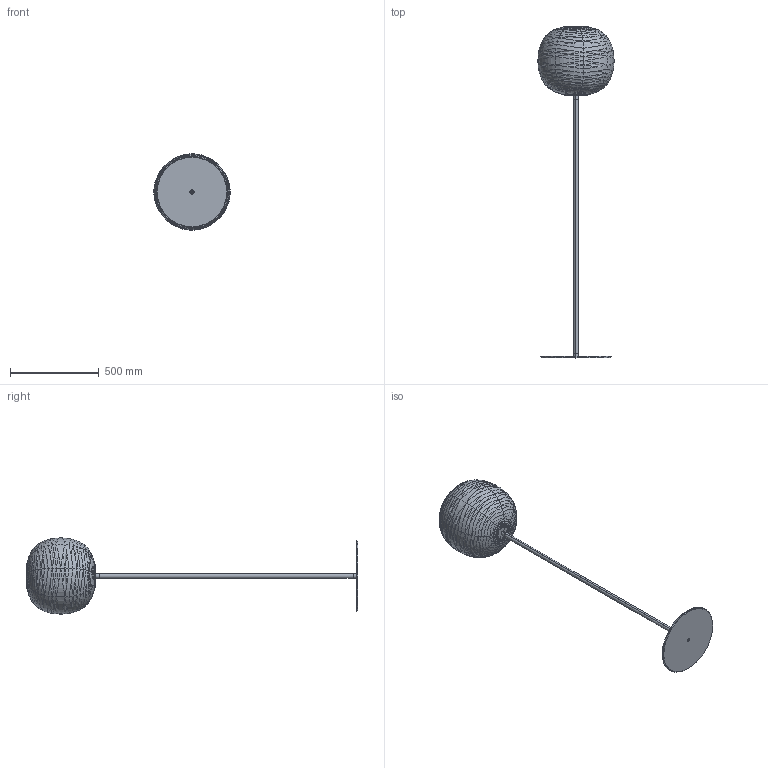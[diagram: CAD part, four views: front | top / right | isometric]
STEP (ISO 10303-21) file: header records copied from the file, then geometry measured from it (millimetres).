
FILE_DESCRIPTION (( 'STEP AP203' ), '1' );
FILE_NAME ('274_STD_F_ME_3D.STEP', '2021-10-25T08:27:35', ( '' ), ( '' ), 'SwSTEP 2.0', 'SolidWorks 2021', '' );
FILE_SCHEMA (( 'CONFIG_CONTROL_DESIGN' ));
Products named in the file (1): 274_STD_F_ME_3D
Bounding box: 428.09 x 1868.99 x 428.09 mm (x, y, z)
Volume: 3908112 mm3; surface area: 1875026.5 mm2
Topology: 6 solids, 6 shells, 1908 faces, 4711 edges, 2653 vertices
Faces by surface type: bspline 1153, cylinder 397, plane 235, cone 123
Entity records: 158550 total; most frequent: CARTESIAN_POINT 125807, ORIENTED_EDGE 9026, EDGE_CURVE 4513, B_SPLINE_CURVE_WITH_KNOTS 3477, VERTEX_POINT 2643, DIRECTION 2624, EDGE_LOOP 1948, FACE_OUTER_BOUND 1898
